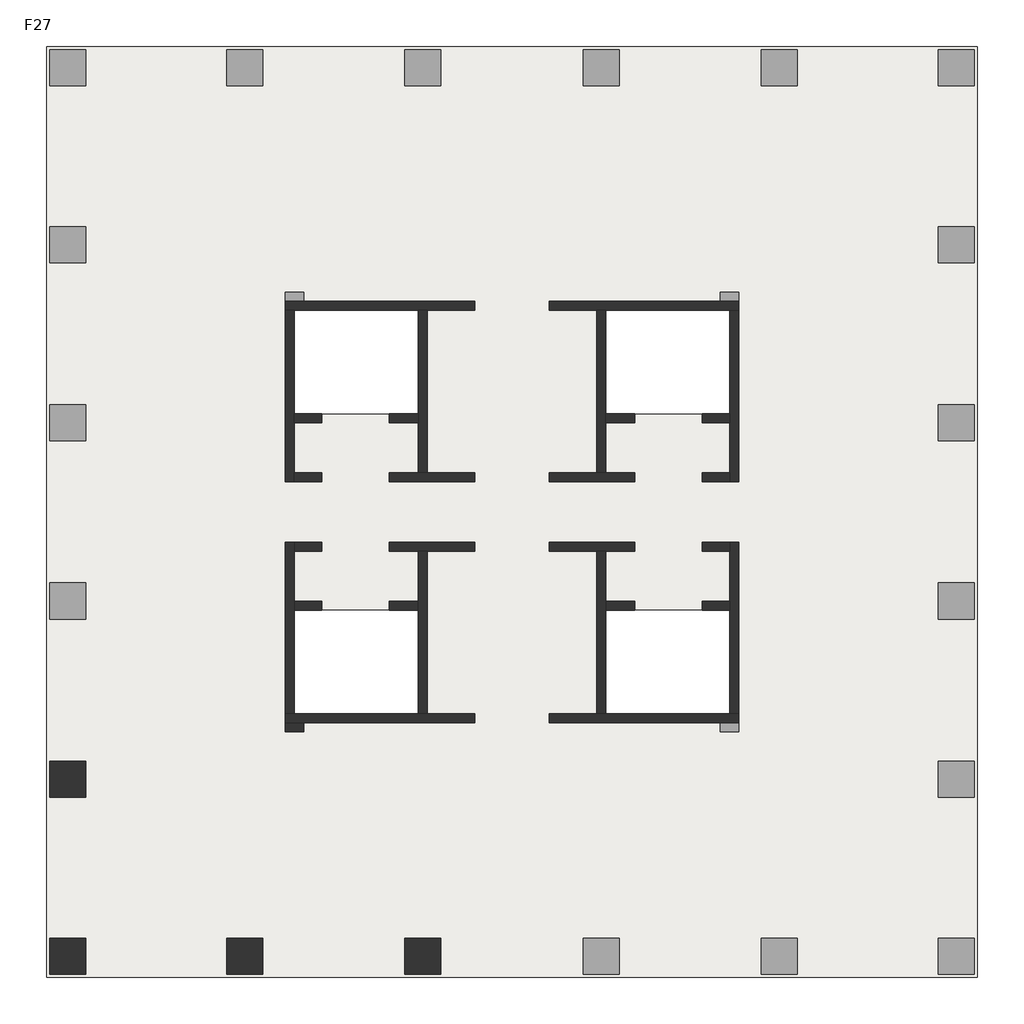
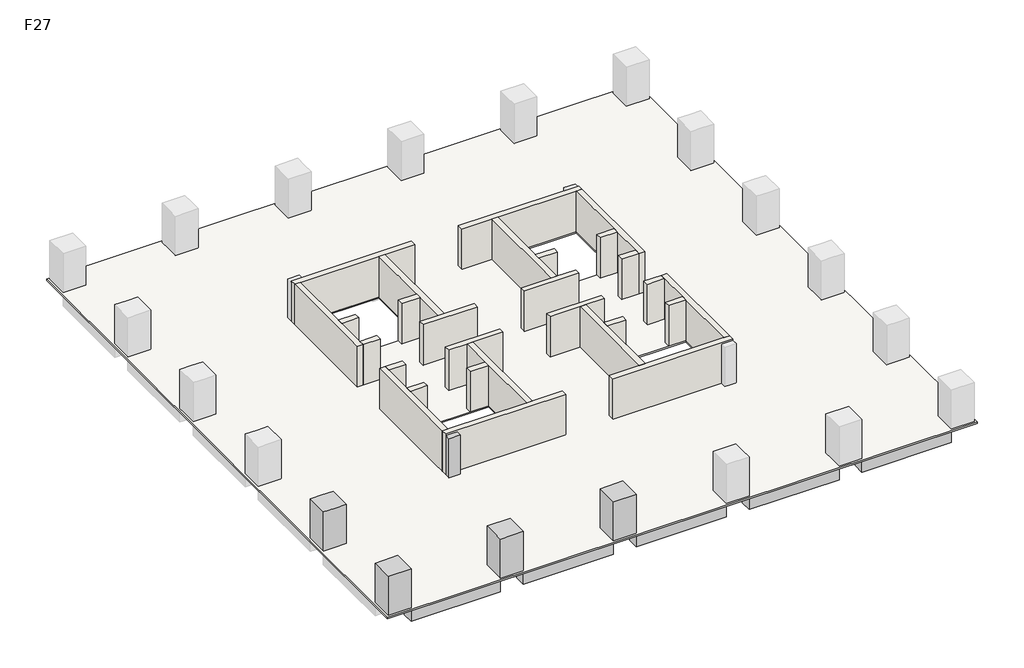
# One storey, part 1 of 2: 28 walls, 5 columns, 3 beams, 1 slab.
"""IFC4 building model written with IfcOpenShell, lengths in millimetres."""

from ifc_helpers import new_model, si_unit, frame, origin, place, context, project, spatial, polyline, outline, extrude, faceted_brep, element, save

model = new_model("IFC4")

# Units and contexts
model_context = context("Model", 3, world=origin())
ifc_project = project(units=[si_unit("LENGTHUNIT", "METRE", prefix="MILLI")], contexts=[model_context])

# Site, building, storey
site = spatial("IfcSite", under=ifc_project)
building = spatial("IfcBuilding", under=site)
storey = spatial("IfcBuildingStorey", under=building, Name="F27", Elevation=99000.0)

# Beams
placement = place(None, origin())
element("IfcBeam", 1, ObjectType="混凝土 - 矩形梁 : KL(5)-800x1000", at=placement, inside=storey, context=model_context, shape_type="SweptSolid", body=[
    extrude(outline(polyline([(-12472.6742169, -13948.9501342), (-12472.6742169, -13148.9501342), (-6222.6742169, -13148.9501342), (-6222.6742169, -13948.9501342), (-12472.6742169, -13948.9501342)])), frame((0.0, 0.0, 98000.0), z_axis=(0.0, 0.0, 1.0), x_axis=(1.0, 0.0, 0.0)), (0.0, 0.0, 1.0), 900.0),
    extrude(outline(polyline([(25327.3257831, -13148.9501342), (25327.3257831, -13948.9501342), (19077.3257831, -13948.9501342), (19077.3257831, -13148.9501342), (25327.3257831, -13148.9501342)])), frame((0.0, 0.0, 98000.0), z_axis=(0.0, 0.0, 1.0), x_axis=(1.0, 0.0, 0.0)), (0.0, 0.0, 1.0), 900.0),
    extrude(outline(polyline([(-4622.6742169, -13948.9501342), (-4622.6742169, -13148.9501342), (1677.3257831, -13148.9501342), (1677.3257831, -13948.9501342), (-4622.6742169, -13948.9501342)])), frame((0.0, 0.0, 98000.0), z_axis=(0.0, 0.0, 1.0), x_axis=(1.0, 0.0, 0.0)), (0.0, 0.0, 1.0), 900.0),
    extrude(outline(polyline([(3277.3257831, -13948.9501342), (3277.3257831, -13148.9501342), (9577.3257831, -13148.9501342), (9577.3257831, -13948.9501342), (3277.3257831, -13948.9501342)])), frame((0.0, 0.0, 98000.0), z_axis=(0.0, 0.0, 1.0), x_axis=(1.0, 0.0, 0.0)), (0.0, 0.0, 1.0), 900.0),
    extrude(outline(polyline([(11177.3257831, -13948.9501342), (11177.3257831, -13148.9501342), (17477.3257831, -13148.9501342), (17477.3257831, -13948.9501342), (11177.3257831, -13948.9501342)])), frame((0.0, 0.0, 98000.0), z_axis=(0.0, 0.0, 1.0), x_axis=(1.0, 0.0, 0.0)), (0.0, 0.0, 1.0), 900.0),
])
element("IfcBeam", 2, ObjectType="混凝土 - 矩形梁 : L1-800x500", at=placement, inside=storey, context=model_context, shape_type="Brep", body=[
    faceted_brep([(-12472.6742169, -5512.1353397, 98500.0), (-3746.9473979, -3341.556529, 98500.0), (-3173.6696907, -3198.9501342, 98500.0), (-3173.6696907, -3198.9501342, 98900.0), (-3746.9473979, -3341.556529, 98900.0), (-12472.6742169, -5512.1353397, 98900.0), (-3622.6742169, -3198.9501342, 98500.0), (-12472.6742169, -4687.7549784, 98500.0), (-3622.6742169, -2486.2624411, 98500.0), (-3622.6742169, -2798.9501342, 98500.0), (-12472.6742169, -4687.7549784, 98900.0), (-3622.6742169, -2486.2624411, 98900.0), (-3622.6742169, -3198.9501342, 98900.0)], [[[0, 1, 2, 3, 4, 5]], [[6, 2, 1, 0, 7, 8, 9]], [[8, 7, 10, 11]], [[2, 6, 12, 3]], [[9, 8, 11, 12, 6]], [[7, 0, 5, 10]], [[5, 4, 3, 12, 11, 10]]]),
])
element("IfcBeam", 3, ObjectType="混凝土 - 矩形梁 : L1-800x500", at=placement, inside=storey, context=model_context, shape_type="SweptSolid", body=[
    extrude(outline(polyline([(-3746.9473979, -3341.556529), (-3173.6696907, -3198.9501342), (-2898.7618154, -3198.9501342), (-4843.6893517, -12348.9501342), (-5661.5624638, -12348.9501342), (-3746.9473979, -3341.556529)])), frame((0.0, 0.0, 98500.0), z_axis=(0.0, 0.0, 1.0), x_axis=(1.0, 0.0, 0.0)), (0.0, 0.0, 1.0), 400.0),
])

# Columns
element("IfcColumn", 4, ObjectType="混凝土 - 矩形 - 柱 : Z1-1600x1600", at=placement, inside=storey, context=model_context, shape_type="Brep", body=[
    faceted_brep([(-12472.6742169, -4498.9501342, 99000.0), (-12472.6742169, -6098.9501342, 99000.0), (-14072.6742169, -6098.9501342, 99000.0), (-14072.6742169, -4498.9501342, 99000.0), (-12472.6742169, -4498.9501342, 101900.0), (-12472.6742169, -6098.9501342, 101900.0), (-13272.6742169, -6098.9501342, 101900.0), (-14072.6742169, -6098.9501342, 101900.0), (-14072.6742169, -6098.9501342, 101000.0), (-14072.6742169, -4498.9501342, 101900.0), (-14072.6742169, -4498.9501342, 101000.0), (-13272.6742169, -4498.9501342, 101900.0)], [[[0, 1, 2, 3]], [[1, 0, 4, 5]], [[2, 1, 5, 6, 7, 8]], [[3, 2, 8, 7, 9, 10]], [[0, 3, 10, 9, 11, 4]], [[5, 4, 11, 9, 7, 6]]]),
])
element("IfcColumn", 5, ObjectType="混凝土 - 矩形 - 柱 : Z1-1600x1600", at=placement, inside=storey, context=model_context, shape_type="SweptSolid", body=[
    extrude(outline(polyline([(-12472.6742169, -12348.9501342), (-12472.6742169, -13948.9501342), (-14072.6742169, -13948.9501342), (-14072.6742169, -12348.9501342), (-12472.6742169, -12348.9501342)])), frame((0.0, 0.0, 99000.0), z_axis=(0.0, 0.0, 1.0), x_axis=(1.0, 0.0, 0.0)), (0.0, 0.0, 1.0), 2900.0),
])
element("IfcColumn", 6, ObjectType="混凝土 - 矩形 - 柱 : Z1-1600x1600", at=placement, inside=storey, context=model_context, shape_type="Brep", body=[
    faceted_brep([(-4622.6742169, -12348.9501342, 99000.0), (-4622.6742169, -13948.9501342, 99000.0), (-6222.6742169, -13948.9501342, 99000.0), (-6222.6742169, -12348.9501342, 99000.0), (-4622.6742169, -12348.9501342, 101900.0), (-4622.6742169, -13148.9501342, 101900.0), (-4622.6742169, -13948.9501342, 101900.0), (-4622.6742169, -13948.9501342, 101000.0), (-6222.6742169, -13948.9501342, 101900.0), (-6222.6742169, -13948.9501342, 101000.0), (-6222.6742169, -13148.9501342, 101900.0), (-6222.6742169, -12348.9501342, 101900.0)], [[[0, 1, 2, 3]], [[1, 0, 4, 5, 6, 7]], [[2, 1, 7, 6, 8, 9]], [[3, 2, 9, 8, 10, 11]], [[0, 3, 11, 4]], [[6, 5, 4, 11, 10, 8]]]),
])
element("IfcColumn", 7, ObjectType="混凝土 - 矩形 - 柱 : Z1-1600x1600", at=placement, inside=storey, context=model_context, shape_type="Brep", body=[
    faceted_brep([(3277.3257831, -12348.9501342, 99000.0), (3277.3257831, -13948.9501342, 99000.0), (1677.3257831, -13948.9501342, 99000.0), (1677.3257831, -12348.9501342, 99000.0), (3277.3257831, -12348.9501342, 101900.0), (3277.3257831, -13148.9501342, 101900.0), (3277.3257831, -13948.9501342, 101900.0), (3277.3257831, -13948.9501342, 101000.0), (1677.3257831, -13948.9501342, 101900.0), (1677.3257831, -13948.9501342, 101000.0), (1677.3257831, -13148.9501342, 101900.0), (1677.3257831, -12348.9501342, 101900.0)], [[[0, 1, 2, 3]], [[1, 0, 4, 5, 6, 7]], [[2, 1, 7, 6, 8, 9]], [[3, 2, 9, 8, 10, 11]], [[0, 3, 11, 4]], [[6, 5, 4, 11, 10, 8]]]),
])
element("IfcColumn", 8, ObjectType="混凝土 - 矩形 - 柱 : Z2-800x800", at=placement, inside=storey, context=model_context, shape_type="SweptSolid", body=[
    extrude(outline(polyline([(-2822.6742169, -3198.9501342), (-3622.6742169, -3198.9501342), (-3622.6742169, -2798.9501342), (-2822.6742169, -2798.9501342), (-2822.6742169, -3198.9501342)])), frame((0.0, 0.0, 99000.0), z_axis=(0.0, 0.0, 1.0), x_axis=(1.0, 0.0, 0.0)), (0.0, 0.0, 1.0), 2900.0),
])

# Slab
element("IfcSlab", 9, ObjectType="LB-100", at=placement, inside=storey, context=model_context, shape_type="SweptSolid", body=[
    extrude(outline(polyline([(27077.3257831, 27201.0498658), (27077.3257831, -14085.2672073), (-14222.6742169, -14085.2672073), (-14222.6742169, 27201.0498658), (27077.3257831, 27201.0498658)]), holes=[polyline([(2277.3257831, 15501.0498658), (-3222.6742169, 15501.0498658), (-3222.6742169, 10901.0498658), (2277.3257831, 10901.0498658), (2277.3257831, 15501.0498658)]), polyline([(2277.3257831, 2201.0498658), (-3222.6742169, 2201.0498658), (-3222.6742169, -2398.9501342), (2277.3257831, -2398.9501342), (2277.3257831, 2201.0498658)]), polyline([(16077.3257831, 2201.0498658), (10577.3257831, 2201.0498658), (10577.3257831, -2398.9501342), (16077.3257831, -2398.9501342), (16077.3257831, 2201.0498658)]), polyline([(16077.3257831, 15501.0498658), (10577.3257831, 15501.0498658), (10577.3257831, 10901.0498658), (16077.3257831, 10901.0498658), (16077.3257831, 15501.0498658)])]), frame((0.0, 0.0, 98900.0), z_axis=(0.0, 0.0, 1.0), x_axis=(1.0, 0.0, 0.0)), (0.0, 0.0, 1.0), 100.0),
])

# Walls
element("IfcWall", 10, ObjectType="剪力墙-400", at=placement, inside=storey, context=model_context, shape_type="Brep", body=[
    faceted_brep([(-3622.6742169, 15501.0498658, 99000.0), (-3222.6742169, 15501.0498658, 99000.0), (2277.3257831, 15501.0498658, 99000.0), (2677.3257831, 15501.0498658, 99000.0), (4777.3257831, 15501.0498658, 99000.0), (4777.3257831, 15501.0498658, 102000.0), (2677.3257831, 15501.0498658, 102000.0), (2277.3257831, 15501.0498658, 102000.0), (-3222.6742169, 15501.0498658, 102000.0), (-3622.6742169, 15501.0498658, 102000.0), (-3622.6742169, 15901.0498658, 99000.0), (-3622.6742169, 15901.0498658, 101900.0), (-3622.6742169, 15901.0498658, 102000.0), (4777.3257831, 15901.0498658, 102000.0), (4777.3257831, 15901.0498658, 99000.0), (-2822.6742169, 15901.0498658, 99000.0)], [[[0, 1, 2, 3, 4, 5, 6, 7, 8, 9]], [[10, 11, 12, 13, 14, 15]], [[4, 3, 2, 1, 0, 10, 15, 14]], [[5, 4, 14, 13]], [[9, 8, 7, 6, 5, 13, 12]], [[0, 9, 12, 11, 10]]]),
])
element("IfcWall", 11, ObjectType="剪力墙-400", at=placement, inside=storey, context=model_context, shape_type="Brep", body=[
    faceted_brep([(2277.3257831, 15501.0498658, 99000.0), (2277.3257831, 10901.0498658, 99000.0), (2277.3257831, 10501.0498658, 99000.0), (2277.3257831, 8301.0498658, 99000.0), (2277.3257831, 8301.0498658, 102000.0), (2277.3257831, 10501.0498658, 102000.0), (2277.3257831, 10901.0498658, 102000.0), (2277.3257831, 15501.0498658, 102000.0), (2677.3257831, 15501.0498658, 99000.0), (2677.3257831, 15501.0498658, 102000.0), (2677.3257831, 8301.0498658, 102000.0), (2677.3257831, 8301.0498658, 99000.0)], [[[0, 1, 2, 3, 4, 5, 6, 7]], [[8, 9, 10, 11]], [[3, 2, 1, 0, 8, 11]], [[7, 6, 5, 4, 10, 9]], [[0, 7, 9, 8]], [[4, 3, 11, 10]]]),
])
element("IfcWall", 12, ObjectType="剪力墙-400", at=placement, inside=storey, context=model_context, shape_type="Brep", body=[
    faceted_brep([(-3622.6742169, 15501.0498658, 99000.0), (-3622.6742169, 7901.0498658, 99000.0), (-3622.6742169, 7901.0498658, 102000.0), (-3622.6742169, 15501.0498658, 102000.0), (-3222.6742169, 15501.0498658, 99000.0), (-3222.6742169, 15501.0498658, 102000.0), (-3222.6742169, 10901.0498658, 102000.0), (-3222.6742169, 10501.0498658, 102000.0), (-3222.6742169, 8301.0498658, 102000.0), (-3222.6742169, 7901.0498658, 102000.0), (-3222.6742169, 7901.0498658, 99000.0), (-3222.6742169, 8301.0498658, 99000.0), (-3222.6742169, 10501.0498658, 99000.0), (-3222.6742169, 10901.0498658, 99000.0)], [[[0, 1, 2, 3]], [[4, 5, 6, 7, 8, 9, 10, 11, 12, 13]], [[1, 0, 4, 13, 12, 11, 10]], [[3, 2, 9, 8, 7, 6, 5]], [[0, 3, 5, 4]], [[2, 1, 10, 9]]]),
])
element("IfcWall", 13, ObjectType="剪力墙-400", at=placement, inside=storey, context=model_context, shape_type="SweptSolid", body=[
    extrude(outline(polyline([(-2022.6742169, 7901.0498658), (-3222.6742169, 7901.0498658), (-3222.6742169, 8301.0498658), (-2022.6742169, 8301.0498658), (-2022.6742169, 7901.0498658)])), frame((0.0, 0.0, 99000.0), z_axis=(0.0, 0.0, 1.0), x_axis=(1.0, 0.0, 0.0)), (0.0, 0.0, 1.0), 3000.0),
])
element("IfcWall", 14, ObjectType="剪力墙-400", at=placement, inside=storey, context=model_context, shape_type="Brep", body=[
    faceted_brep([(977.3257831, 7901.0498658, 99000.0), (4777.3257831, 7901.0498658, 99000.0), (4777.3257831, 7901.0498658, 102000.0), (977.3257831, 7901.0498658, 102000.0), (977.3257831, 8301.0498658, 99000.0), (977.3257831, 8301.0498658, 102000.0), (2277.3257831, 8301.0498658, 102000.0), (2677.3257831, 8301.0498658, 102000.0), (4777.3257831, 8301.0498658, 102000.0), (4777.3257831, 8301.0498658, 99000.0), (2677.3257831, 8301.0498658, 99000.0), (2277.3257831, 8301.0498658, 99000.0)], [[[0, 1, 2, 3]], [[4, 5, 6, 7, 8, 9, 10, 11]], [[1, 0, 4, 11, 10, 9]], [[2, 1, 9, 8]], [[3, 2, 8, 7, 6, 5]], [[0, 3, 5, 4]]]),
])
element("IfcWall", 15, ObjectType="剪力墙-400", at=placement, inside=storey, context=model_context, shape_type="SweptSolid", body=[
    extrude(outline(polyline([(-2022.6742169, 10501.0498658), (-3222.6742169, 10501.0498658), (-3222.6742169, 10901.0498658), (-2022.6742169, 10901.0498658), (-2022.6742169, 10501.0498658)])), frame((0.0, 0.0, 99000.0), z_axis=(0.0, 0.0, 1.0), x_axis=(1.0, 0.0, 0.0)), (0.0, 0.0, 1.0), 3000.0),
])
element("IfcWall", 16, ObjectType="剪力墙-400", at=placement, inside=storey, context=model_context, shape_type="SweptSolid", body=[
    extrude(outline(polyline([(2277.3257831, 10501.0498658), (977.3257831, 10501.0498658), (977.3257831, 10901.0498658), (2277.3257831, 10901.0498658), (2277.3257831, 10501.0498658)])), frame((0.0, 0.0, 99000.0), z_axis=(0.0, 0.0, 1.0), x_axis=(1.0, 0.0, 0.0)), (0.0, 0.0, 1.0), 3000.0),
])
element("IfcWall", 17, ObjectType="剪力墙-400", at=placement, inside=storey, context=model_context, shape_type="Brep", body=[
    faceted_brep([(16477.3257831, 15901.0498658, 99000.0), (15677.3257831, 15901.0498658, 99000.0), (8077.3257831, 15901.0498658, 99000.0), (8077.3257831, 15901.0498658, 102000.0), (16477.3257831, 15901.0498658, 102000.0), (16477.3257831, 15901.0498658, 101900.0), (16477.3257831, 15501.0498658, 99000.0), (16477.3257831, 15501.0498658, 102000.0), (16077.3257831, 15501.0498658, 102000.0), (10577.3257831, 15501.0498658, 102000.0), (10177.3257831, 15501.0498658, 102000.0), (8077.3257831, 15501.0498658, 102000.0), (8077.3257831, 15501.0498658, 99000.0), (10177.3257831, 15501.0498658, 99000.0), (10577.3257831, 15501.0498658, 99000.0), (16077.3257831, 15501.0498658, 99000.0)], [[[0, 1, 2, 3, 4, 5]], [[6, 7, 8, 9, 10, 11, 12, 13, 14, 15]], [[2, 1, 0, 6, 15, 14, 13, 12]], [[3, 2, 12, 11]], [[4, 3, 11, 10, 9, 8, 7]], [[0, 5, 4, 7, 6]]]),
])
element("IfcWall", 18, ObjectType="剪力墙-400", at=placement, inside=storey, context=model_context, shape_type="Brep", body=[
    faceted_brep([(10177.3257831, 15501.0498658, 99000.0), (10177.3257831, 8301.0498658, 99000.0), (10177.3257831, 8301.0498658, 102000.0), (10177.3257831, 15501.0498658, 102000.0), (10577.3257831, 15501.0498658, 99000.0), (10577.3257831, 15501.0498658, 102000.0), (10577.3257831, 10901.0498658, 102000.0), (10577.3257831, 10501.0498658, 102000.0), (10577.3257831, 8301.0498658, 102000.0), (10577.3257831, 8301.0498658, 99000.0), (10577.3257831, 10501.0498658, 99000.0), (10577.3257831, 10901.0498658, 99000.0)], [[[0, 1, 2, 3]], [[4, 5, 6, 7, 8, 9, 10, 11]], [[1, 0, 4, 11, 10, 9]], [[3, 2, 8, 7, 6, 5]], [[0, 3, 5, 4]], [[2, 1, 9, 8]]]),
])
element("IfcWall", 19, ObjectType="剪力墙-400", at=placement, inside=storey, context=model_context, shape_type="Brep", body=[
    faceted_brep([(16077.3257831, 15501.0498658, 99000.0), (16077.3257831, 10901.0498658, 99000.0), (16077.3257831, 10501.0498658, 99000.0), (16077.3257831, 8301.0498658, 99000.0), (16077.3257831, 7901.0498658, 99000.0), (16077.3257831, 7901.0498658, 102000.0), (16077.3257831, 8301.0498658, 102000.0), (16077.3257831, 10501.0498658, 102000.0), (16077.3257831, 10901.0498658, 102000.0), (16077.3257831, 15501.0498658, 102000.0), (16477.3257831, 15501.0498658, 99000.0), (16477.3257831, 15501.0498658, 102000.0), (16477.3257831, 7901.0498658, 102000.0), (16477.3257831, 7901.0498658, 99000.0)], [[[0, 1, 2, 3, 4, 5, 6, 7, 8, 9]], [[10, 11, 12, 13]], [[4, 3, 2, 1, 0, 10, 13]], [[9, 8, 7, 6, 5, 12, 11]], [[0, 9, 11, 10]], [[5, 4, 13, 12]]]),
])
element("IfcWall", 20, ObjectType="剪力墙-400", at=placement, inside=storey, context=model_context, shape_type="SweptSolid", body=[
    extrude(outline(polyline([(14877.3257831, 8301.0498658), (16077.3257831, 8301.0498658), (16077.3257831, 7901.0498658), (14877.3257831, 7901.0498658), (14877.3257831, 8301.0498658)])), frame((0.0, 0.0, 99000.0), z_axis=(0.0, 0.0, 1.0), x_axis=(1.0, 0.0, 0.0)), (0.0, 0.0, 1.0), 3000.0),
])
element("IfcWall", 21, ObjectType="剪力墙-400", at=placement, inside=storey, context=model_context, shape_type="Brep", body=[
    faceted_brep([(11877.3257831, 8301.0498658, 99000.0), (10577.3257831, 8301.0498658, 99000.0), (10177.3257831, 8301.0498658, 99000.0), (8077.3257831, 8301.0498658, 99000.0), (8077.3257831, 8301.0498658, 102000.0), (10177.3257831, 8301.0498658, 102000.0), (10577.3257831, 8301.0498658, 102000.0), (11877.3257831, 8301.0498658, 102000.0), (11877.3257831, 7901.0498658, 99000.0), (11877.3257831, 7901.0498658, 102000.0), (8077.3257831, 7901.0498658, 102000.0), (8077.3257831, 7901.0498658, 99000.0)], [[[0, 1, 2, 3, 4, 5, 6, 7]], [[8, 9, 10, 11]], [[3, 2, 1, 0, 8, 11]], [[4, 3, 11, 10]], [[7, 6, 5, 4, 10, 9]], [[0, 7, 9, 8]]]),
])
element("IfcWall", 22, ObjectType="剪力墙-400", at=placement, inside=storey, context=model_context, shape_type="SweptSolid", body=[
    extrude(outline(polyline([(14877.3257831, 10901.0498658), (16077.3257831, 10901.0498658), (16077.3257831, 10501.0498658), (14877.3257831, 10501.0498658), (14877.3257831, 10901.0498658)])), frame((0.0, 0.0, 99000.0), z_axis=(0.0, 0.0, 1.0), x_axis=(1.0, 0.0, 0.0)), (0.0, 0.0, 1.0), 3000.0),
])
element("IfcWall", 23, ObjectType="剪力墙-400", at=placement, inside=storey, context=model_context, shape_type="SweptSolid", body=[
    extrude(outline(polyline([(10577.3257831, 10901.0498658), (11877.3257831, 10901.0498658), (11877.3257831, 10501.0498658), (10577.3257831, 10501.0498658), (10577.3257831, 10901.0498658)])), frame((0.0, 0.0, 99000.0), z_axis=(0.0, 0.0, 1.0), x_axis=(1.0, 0.0, 0.0)), (0.0, 0.0, 1.0), 3000.0),
])
element("IfcWall", 24, ObjectType="剪力墙-400", at=placement, inside=storey, context=model_context, shape_type="Brep", body=[
    faceted_brep([(-3622.6742169, -2798.9501342, 99000.0), (-2822.6742169, -2798.9501342, 99000.0), (4777.3257831, -2798.9501342, 99000.0), (4777.3257831, -2798.9501342, 102000.0), (-3622.6742169, -2798.9501342, 102000.0), (-3622.6742169, -2798.9501342, 101900.0), (-3622.6742169, -2398.9501342, 99000.0), (-3622.6742169, -2398.9501342, 102000.0), (-3222.6742169, -2398.9501342, 102000.0), (2277.3257831, -2398.9501342, 102000.0), (2677.3257831, -2398.9501342, 102000.0), (4777.3257831, -2398.9501342, 102000.0), (4777.3257831, -2398.9501342, 99000.0), (2677.3257831, -2398.9501342, 99000.0), (2277.3257831, -2398.9501342, 99000.0), (-3222.6742169, -2398.9501342, 99000.0)], [[[0, 1, 2, 3, 4, 5]], [[6, 7, 8, 9, 10, 11, 12, 13, 14, 15]], [[2, 1, 0, 6, 15, 14, 13, 12]], [[3, 2, 12, 11]], [[4, 3, 11, 10, 9, 8, 7]], [[0, 5, 4, 7, 6]]]),
])
element("IfcWall", 25, ObjectType="剪力墙-400", at=placement, inside=storey, context=model_context, shape_type="Brep", body=[
    faceted_brep([(2677.3257831, -2398.9501342, 99000.0), (2677.3257831, 4801.0498658, 99000.0), (2677.3257831, 4801.0498658, 102000.0), (2677.3257831, -2398.9501342, 102000.0), (2277.3257831, -2398.9501342, 99000.0), (2277.3257831, -2398.9501342, 102000.0), (2277.3257831, 2201.0498658, 102000.0), (2277.3257831, 2601.0498658, 102000.0), (2277.3257831, 4801.0498658, 102000.0), (2277.3257831, 4801.0498658, 99000.0), (2277.3257831, 2601.0498658, 99000.0), (2277.3257831, 2201.0498658, 99000.0)], [[[0, 1, 2, 3]], [[4, 5, 6, 7, 8, 9, 10, 11]], [[1, 0, 4, 11, 10, 9]], [[3, 2, 8, 7, 6, 5]], [[0, 3, 5, 4]], [[2, 1, 9, 8]]]),
])
element("IfcWall", 26, ObjectType="剪力墙-400", at=placement, inside=storey, context=model_context, shape_type="Brep", body=[
    faceted_brep([(-3222.6742169, -2398.9501342, 99000.0), (-3222.6742169, 2201.0498658, 99000.0), (-3222.6742169, 2601.0498658, 99000.0), (-3222.6742169, 4801.0498658, 99000.0), (-3222.6742169, 5201.0498658, 99000.0), (-3222.6742169, 5201.0498658, 102000.0), (-3222.6742169, 4801.0498658, 102000.0), (-3222.6742169, 2601.0498658, 102000.0), (-3222.6742169, 2201.0498658, 102000.0), (-3222.6742169, -2398.9501342, 102000.0), (-3622.6742169, -2398.9501342, 99000.0), (-3622.6742169, -2398.9501342, 102000.0), (-3622.6742169, 5201.0498658, 102000.0), (-3622.6742169, 5201.0498658, 99000.0)], [[[0, 1, 2, 3, 4, 5, 6, 7, 8, 9]], [[10, 11, 12, 13]], [[4, 3, 2, 1, 0, 10, 13]], [[9, 8, 7, 6, 5, 12, 11]], [[0, 9, 11, 10]], [[5, 4, 13, 12]]]),
])
element("IfcWall", 27, ObjectType="剪力墙-400", at=placement, inside=storey, context=model_context, shape_type="SweptSolid", body=[
    extrude(outline(polyline([(-2022.6742169, 4801.0498658), (-3222.6742169, 4801.0498658), (-3222.6742169, 5201.0498658), (-2022.6742169, 5201.0498658), (-2022.6742169, 4801.0498658)])), frame((0.0, 0.0, 99000.0), z_axis=(0.0, 0.0, 1.0), x_axis=(1.0, 0.0, 0.0)), (0.0, 0.0, 1.0), 3000.0),
])
element("IfcWall", 28, ObjectType="剪力墙-400", at=placement, inside=storey, context=model_context, shape_type="Brep", body=[
    faceted_brep([(977.3257831, 4801.0498658, 99000.0), (2277.3257831, 4801.0498658, 99000.0), (2677.3257831, 4801.0498658, 99000.0), (4777.3257831, 4801.0498658, 99000.0), (4777.3257831, 4801.0498658, 102000.0), (2677.3257831, 4801.0498658, 102000.0), (2277.3257831, 4801.0498658, 102000.0), (977.3257831, 4801.0498658, 102000.0), (977.3257831, 5201.0498658, 99000.0), (977.3257831, 5201.0498658, 102000.0), (4777.3257831, 5201.0498658, 102000.0), (4777.3257831, 5201.0498658, 99000.0)], [[[0, 1, 2, 3, 4, 5, 6, 7]], [[8, 9, 10, 11]], [[3, 2, 1, 0, 8, 11]], [[4, 3, 11, 10]], [[7, 6, 5, 4, 10, 9]], [[0, 7, 9, 8]]]),
])
element("IfcWall", 29, ObjectType="剪力墙-400", at=placement, inside=storey, context=model_context, shape_type="SweptSolid", body=[
    extrude(outline(polyline([(-2022.6742169, 2201.0498658), (-3222.6742169, 2201.0498658), (-3222.6742169, 2601.0498658), (-2022.6742169, 2601.0498658), (-2022.6742169, 2201.0498658)])), frame((0.0, 0.0, 99000.0), z_axis=(0.0, 0.0, 1.0), x_axis=(1.0, 0.0, 0.0)), (0.0, 0.0, 1.0), 3000.0),
])
element("IfcWall", 30, ObjectType="剪力墙-400", at=placement, inside=storey, context=model_context, shape_type="SweptSolid", body=[
    extrude(outline(polyline([(2277.3257831, 2201.0498658), (977.3257831, 2201.0498658), (977.3257831, 2601.0498658), (2277.3257831, 2601.0498658), (2277.3257831, 2201.0498658)])), frame((0.0, 0.0, 99000.0), z_axis=(0.0, 0.0, 1.0), x_axis=(1.0, 0.0, 0.0)), (0.0, 0.0, 1.0), 3000.0),
])
element("IfcWall", 31, ObjectType="剪力墙-400", at=placement, inside=storey, context=model_context, shape_type="Brep", body=[
    faceted_brep([(16477.3257831, -2398.9501342, 99000.0), (16077.3257831, -2398.9501342, 99000.0), (10577.3257831, -2398.9501342, 99000.0), (10177.3257831, -2398.9501342, 99000.0), (8077.3257831, -2398.9501342, 99000.0), (8077.3257831, -2398.9501342, 102000.0), (10177.3257831, -2398.9501342, 102000.0), (10577.3257831, -2398.9501342, 102000.0), (16077.3257831, -2398.9501342, 102000.0), (16477.3257831, -2398.9501342, 102000.0), (16477.3257831, -2798.9501342, 99000.0), (16477.3257831, -2798.9501342, 101900.0), (16477.3257831, -2798.9501342, 102000.0), (8077.3257831, -2798.9501342, 102000.0), (8077.3257831, -2798.9501342, 99000.0), (15677.3257831, -2798.9501342, 99000.0)], [[[0, 1, 2, 3, 4, 5, 6, 7, 8, 9]], [[10, 11, 12, 13, 14, 15]], [[4, 3, 2, 1, 0, 10, 15, 14]], [[5, 4, 14, 13]], [[9, 8, 7, 6, 5, 13, 12]], [[0, 9, 12, 11, 10]]]),
])
element("IfcWall", 32, ObjectType="剪力墙-400", at=placement, inside=storey, context=model_context, shape_type="Brep", body=[
    faceted_brep([(10577.3257831, -2398.9501342, 99000.0), (10577.3257831, 2201.0498658, 99000.0), (10577.3257831, 2601.0498658, 99000.0), (10577.3257831, 4801.0498658, 99000.0), (10577.3257831, 4801.0498658, 102000.0), (10577.3257831, 2601.0498658, 102000.0), (10577.3257831, 2201.0498658, 102000.0), (10577.3257831, -2398.9501342, 102000.0), (10177.3257831, -2398.9501342, 99000.0), (10177.3257831, -2398.9501342, 102000.0), (10177.3257831, 4801.0498658, 102000.0), (10177.3257831, 4801.0498658, 99000.0)], [[[0, 1, 2, 3, 4, 5, 6, 7]], [[8, 9, 10, 11]], [[3, 2, 1, 0, 8, 11]], [[7, 6, 5, 4, 10, 9]], [[0, 7, 9, 8]], [[4, 3, 11, 10]]]),
])
element("IfcWall", 33, ObjectType="剪力墙-400", at=placement, inside=storey, context=model_context, shape_type="Brep", body=[
    faceted_brep([(16477.3257831, -2398.9501342, 99000.0), (16477.3257831, 5201.0498658, 99000.0), (16477.3257831, 5201.0498658, 102000.0), (16477.3257831, -2398.9501342, 102000.0), (16077.3257831, -2398.9501342, 99000.0), (16077.3257831, -2398.9501342, 102000.0), (16077.3257831, 2201.0498658, 102000.0), (16077.3257831, 2601.0498658, 102000.0), (16077.3257831, 4801.0498658, 102000.0), (16077.3257831, 5201.0498658, 102000.0), (16077.3257831, 5201.0498658, 99000.0), (16077.3257831, 4801.0498658, 99000.0), (16077.3257831, 2601.0498658, 99000.0), (16077.3257831, 2201.0498658, 99000.0)], [[[0, 1, 2, 3]], [[4, 5, 6, 7, 8, 9, 10, 11, 12, 13]], [[1, 0, 4, 13, 12, 11, 10]], [[3, 2, 9, 8, 7, 6, 5]], [[0, 3, 5, 4]], [[2, 1, 10, 9]]]),
])
element("IfcWall", 34, ObjectType="剪力墙-400", at=placement, inside=storey, context=model_context, shape_type="SweptSolid", body=[
    extrude(outline(polyline([(14877.3257831, 5201.0498658), (16077.3257831, 5201.0498658), (16077.3257831, 4801.0498658), (14877.3257831, 4801.0498658), (14877.3257831, 5201.0498658)])), frame((0.0, 0.0, 99000.0), z_axis=(0.0, 0.0, 1.0), x_axis=(1.0, 0.0, 0.0)), (0.0, 0.0, 1.0), 3000.0),
])
element("IfcWall", 35, ObjectType="剪力墙-400", at=placement, inside=storey, context=model_context, shape_type="Brep", body=[
    faceted_brep([(11877.3257831, 5201.0498658, 99000.0), (8077.3257831, 5201.0498658, 99000.0), (8077.3257831, 5201.0498658, 102000.0), (11877.3257831, 5201.0498658, 102000.0), (11877.3257831, 4801.0498658, 99000.0), (11877.3257831, 4801.0498658, 102000.0), (10577.3257831, 4801.0498658, 102000.0), (10177.3257831, 4801.0498658, 102000.0), (8077.3257831, 4801.0498658, 102000.0), (8077.3257831, 4801.0498658, 99000.0), (10177.3257831, 4801.0498658, 99000.0), (10577.3257831, 4801.0498658, 99000.0)], [[[0, 1, 2, 3]], [[4, 5, 6, 7, 8, 9, 10, 11]], [[1, 0, 4, 11, 10, 9]], [[2, 1, 9, 8]], [[3, 2, 8, 7, 6, 5]], [[0, 3, 5, 4]]]),
])
element("IfcWall", 36, ObjectType="剪力墙-400", at=placement, inside=storey, context=model_context, shape_type="SweptSolid", body=[
    extrude(outline(polyline([(14877.3257831, 2601.0498658), (16077.3257831, 2601.0498658), (16077.3257831, 2201.0498658), (14877.3257831, 2201.0498658), (14877.3257831, 2601.0498658)])), frame((0.0, 0.0, 99000.0), z_axis=(0.0, 0.0, 1.0), x_axis=(1.0, 0.0, 0.0)), (0.0, 0.0, 1.0), 3000.0),
])
element("IfcWall", 37, ObjectType="剪力墙-400", at=placement, inside=storey, context=model_context, shape_type="SweptSolid", body=[
    extrude(outline(polyline([(10577.3257831, 2601.0498658), (11877.3257831, 2601.0498658), (11877.3257831, 2201.0498658), (10577.3257831, 2201.0498658), (10577.3257831, 2601.0498658)])), frame((0.0, 0.0, 99000.0), z_axis=(0.0, 0.0, 1.0), x_axis=(1.0, 0.0, 0.0)), (0.0, 0.0, 1.0), 3000.0),
])

save(model, "model.ifc")
